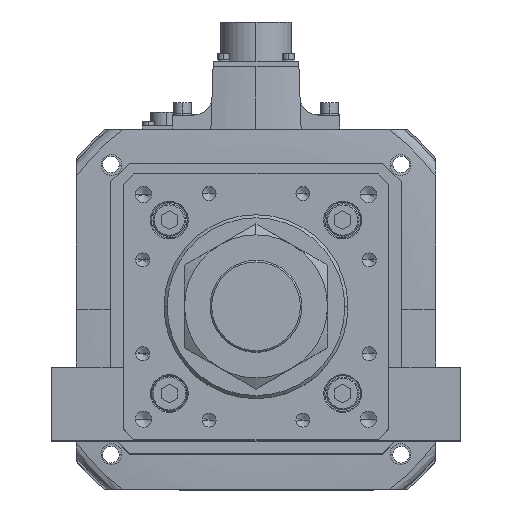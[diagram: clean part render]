
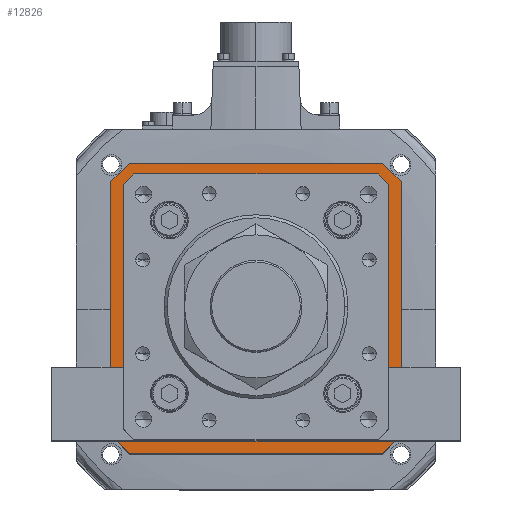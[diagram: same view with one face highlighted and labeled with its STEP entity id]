
A CAD part, top view. The second image highlights one B-rep face of the part: STEP entity #12826.
In plain terms, the highlighted planar face has unit normal (0, 0, 1) as drawn and (0, 0, -1) by its records, which use the part's own axes.
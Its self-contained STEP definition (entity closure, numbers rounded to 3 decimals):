
#49 = CARTESIAN_POINT ( 'NONE',  ( -58.793, 63., 60. ) ) ;
#727 = ORIENTED_EDGE ( 'NONE', *, *, #38077, .T. ) ;
#767 = CARTESIAN_POINT ( 'NONE',  ( -71., -62., 60. ) ) ;
#843 = ORIENTED_EDGE ( 'NONE', *, *, #23063, .T. ) ;
#890 = EDGE_CURVE ( 'NONE', #24007, #19880, #35805, .T. ) ;
#1070 = VECTOR ( 'NONE', #22762, 1000. ) ;
#1563 = DIRECTION ( 'NONE',  ( 0.707, 0.707, 0. ) ) ;
#2560 = VECTOR ( 'NONE', #2666, 1000. ) ;
#2629 = ORIENTED_EDGE ( 'NONE', *, *, #11544, .T. ) ;
#2664 = CARTESIAN_POINT ( 'NONE',  ( -62., -71., 60. ) ) ;
#2666 = DIRECTION ( 'NONE',  ( -0.707, -0.707, 0. ) ) ;
#2939 = VECTOR ( 'NONE', #42751, 1000. ) ;
#3180 = VERTEX_POINT ( 'NONE', #12628 ) ;
#3360 = VERTEX_POINT ( 'NONE', #39389 ) ;
#3573 = DIRECTION ( 'NONE',  ( 0.707, -0.707, 0. ) ) ;
#3762 = VERTEX_POINT ( 'NONE', #21147 ) ;
#4336 = DIRECTION ( 'NONE',  ( -0.707, 0.707, 0. ) ) ;
#5267 = LINE ( 'NONE', #56733, #30895 ) ;
#5506 = EDGE_LOOP ( 'NONE', ( #56211, #45283, #45728, #31810, #35504, #42038, #12228, #843 ) ) ;
#5903 = VERTEX_POINT ( 'NONE', #2664 ) ;
#6422 = VERTEX_POINT ( 'NONE', #11105 ) ;
#6613 = LINE ( 'NONE', #40379, #1070 ) ;
#6712 = VECTOR ( 'NONE', #48771, 1000. ) ;
#8421 = EDGE_CURVE ( 'NONE', #49717, #3360, #57227, .T. ) ;
#9042 = DIRECTION ( 'NONE',  ( -0.707, -0.707, 0. ) ) ;
#11101 = VECTOR ( 'NONE', #35099, 1000. ) ;
#11105 = CARTESIAN_POINT ( 'NONE',  ( 62., 71., 60. ) ) ;
#11352 = CARTESIAN_POINT ( 'NONE',  ( -60.896, 60.896, 60. ) ) ;
#11467 = LINE ( 'NONE', #35575, #48181 ) ;
#11544 = EDGE_CURVE ( 'NONE', #3360, #21516, #52207, .T. ) ;
#11773 = DIRECTION ( 'NONE',  ( 0., -1., 0. ) ) ;
#12228 = ORIENTED_EDGE ( 'NONE', *, *, #32548, .F. ) ;
#12628 = CARTESIAN_POINT ( 'NONE',  ( -58.793, -63., 60. ) ) ;
#12661 = CARTESIAN_POINT ( 'NONE',  ( -59., 63., 60. ) ) ;
#12826 = ADVANCED_FACE ( 'NONE', ( #17468, #14718 ), #20393, .F. ) ;
#13792 = VERTEX_POINT ( 'NONE', #50086 ) ;
#14718 = FACE_OUTER_BOUND ( 'NONE', #5506, .T. ) ;
#15350 = CARTESIAN_POINT ( 'NONE',  ( 62., -71., 60. ) ) ;
#17468 = FACE_BOUND ( 'NONE', #47018, .T. ) ;
#17502 = EDGE_CURVE ( 'NONE', #5903, #32555, #5267, .T. ) ;
#18166 = VERTEX_POINT ( 'NONE', #19768 ) ;
#19768 = CARTESIAN_POINT ( 'NONE',  ( -62., 71., 60. ) ) ;
#19838 = DIRECTION ( 'NONE',  ( 0., 0., 1. ) ) ;
#19880 = VERTEX_POINT ( 'NONE', #22392 ) ;
#20319 = EDGE_CURVE ( 'NONE', #6422, #18166, #34661, .T. ) ;
#20393 = PLANE ( 'NONE',  #29857 ) ;
#21031 = DIRECTION ( 'NONE',  ( 0., 1., 0. ) ) ;
#21147 = CARTESIAN_POINT ( 'NONE',  ( 58.793, 63., 60. ) ) ;
#21516 = VERTEX_POINT ( 'NONE', #53053 ) ;
#21970 = CARTESIAN_POINT ( 'NONE',  ( 58.793, -63., 60. ) ) ;
#22156 = CARTESIAN_POINT ( 'NONE',  ( -71., 71., 60. ) ) ;
#22219 = ORIENTED_EDGE ( 'NONE', *, *, #8421, .T. ) ;
#22374 = VECTOR ( 'NONE', #41863, 1000. ) ;
#22392 = CARTESIAN_POINT ( 'NONE',  ( -63., 58.793, 60. ) ) ;
#22530 = VERTEX_POINT ( 'NONE', #32368 ) ;
#22710 = ORIENTED_EDGE ( 'NONE', *, *, #57066, .T. ) ;
#22762 = DIRECTION ( 'NONE',  ( -0.707, 0.707, 0. ) ) ;
#22856 = VECTOR ( 'NONE', #27865, 1000. ) ;
#23063 = EDGE_CURVE ( 'NONE', #13792, #51820, #11467, .T. ) ;
#23459 = CARTESIAN_POINT ( 'NONE',  ( 60.896, -60.896, 60. ) ) ;
#23742 = EDGE_CURVE ( 'NONE', #21516, #3762, #6613, .T. ) ;
#24007 = VERTEX_POINT ( 'NONE', #49 ) ;
#24089 = LINE ( 'NONE', #49356, #6712 ) ;
#24521 = EDGE_CURVE ( 'NONE', #19880, #27481, #56330, .T. ) ;
#24819 = CARTESIAN_POINT ( 'NONE',  ( -60.896, -60.896, 60. ) ) ;
#25191 = CARTESIAN_POINT ( 'NONE',  ( -63., -59., 60. ) ) ;
#25402 = DIRECTION ( 'NONE',  ( 1., 0., 0. ) ) ;
#25457 = CARTESIAN_POINT ( 'NONE',  ( 62., 71., 60. ) ) ;
#26229 = LINE ( 'NONE', #24819, #46979 ) ;
#26532 = LINE ( 'NONE', #50154, #22374 ) ;
#27256 = VECTOR ( 'NONE', #25402, 1000. ) ;
#27481 = VERTEX_POINT ( 'NONE', #39423 ) ;
#27865 = DIRECTION ( 'NONE',  ( 0., 1., 0. ) ) ;
#29857 = AXIS2_PLACEMENT_3D ( 'NONE', #46879, #19838, #51512 ) ;
#30090 = EDGE_CURVE ( 'NONE', #6422, #22530, #30668, .T. ) ;
#30668 = LINE ( 'NONE', #25457, #51380 ) ;
#30784 = LINE ( 'NONE', #47808, #27256 ) ;
#30895 = VECTOR ( 'NONE', #4336, 1000. ) ;
#31810 = ORIENTED_EDGE ( 'NONE', *, *, #50642, .T. ) ;
#32368 = CARTESIAN_POINT ( 'NONE',  ( 71., 62., 60. ) ) ;
#32548 = EDGE_CURVE ( 'NONE', #13792, #22530, #51179, .T. ) ;
#32555 = VERTEX_POINT ( 'NONE', #767 ) ;
#34661 = LINE ( 'NONE', #22156, #11101 ) ;
#35023 = CARTESIAN_POINT ( 'NONE',  ( 71., 71., 60. ) ) ;
#35099 = DIRECTION ( 'NONE',  ( -1., 0., 0. ) ) ;
#35504 = ORIENTED_EDGE ( 'NONE', *, *, #20319, .F. ) ;
#35575 = CARTESIAN_POINT ( 'NONE',  ( 71., -62., 60. ) ) ;
#35805 = LINE ( 'NONE', #11352, #2560 ) ;
#36390 = VECTOR ( 'NONE', #56377, 1000. ) ;
#36766 = ORIENTED_EDGE ( 'NONE', *, *, #51630, .T. ) ;
#37017 = VECTOR ( 'NONE', #11773, 1000. ) ;
#37200 = DIRECTION ( 'NONE',  ( 0.707, -0.707, 0. ) ) ;
#37201 = EDGE_CURVE ( 'NONE', #45751, #32555, #26532, .T. ) ;
#37707 = VECTOR ( 'NONE', #21031, 1000. ) ;
#37752 = ORIENTED_EDGE ( 'NONE', *, *, #890, .T. ) ;
#38077 = EDGE_CURVE ( 'NONE', #3180, #49717, #38264, .T. ) ;
#38264 = LINE ( 'NONE', #56064, #2939 ) ;
#39389 = CARTESIAN_POINT ( 'NONE',  ( 63., -58.793, 60. ) ) ;
#39423 = CARTESIAN_POINT ( 'NONE',  ( -63., -58.793, 60. ) ) ;
#40379 = CARTESIAN_POINT ( 'NONE',  ( 60.896, 60.896, 60. ) ) ;
#41863 = DIRECTION ( 'NONE',  ( 0., -1., 0. ) ) ;
#42038 = ORIENTED_EDGE ( 'NONE', *, *, #30090, .T. ) ;
#42751 = DIRECTION ( 'NONE',  ( 1., 0., 0. ) ) ;
#44779 = LINE ( 'NONE', #12661, #36390 ) ;
#45283 = ORIENTED_EDGE ( 'NONE', *, *, #17502, .T. ) ;
#45541 = VECTOR ( 'NONE', #1563, 1000. ) ;
#45728 = ORIENTED_EDGE ( 'NONE', *, *, #37201, .F. ) ;
#45751 = VERTEX_POINT ( 'NONE', #46970 ) ;
#46198 = CARTESIAN_POINT ( 'NONE',  ( 63., 59., 60. ) ) ;
#46780 = EDGE_CURVE ( 'NONE', #5903, #51820, #30784, .T. ) ;
#46879 = CARTESIAN_POINT ( 'NONE',  ( 0., 0., 60. ) ) ;
#46970 = CARTESIAN_POINT ( 'NONE',  ( -71., 62., 60. ) ) ;
#46979 = VECTOR ( 'NONE', #37200, 1000. ) ;
#47018 = EDGE_LOOP ( 'NONE', ( #37752, #48554, #22710, #727, #22219, #2629, #56023, #36766 ) ) ;
#47808 = CARTESIAN_POINT ( 'NONE',  ( -71., -71., 60. ) ) ;
#48181 = VECTOR ( 'NONE', #9042, 1000. ) ;
#48554 = ORIENTED_EDGE ( 'NONE', *, *, #24521, .T. ) ;
#48771 = DIRECTION ( 'NONE',  ( 0.707, 0.707, 0. ) ) ;
#49356 = CARTESIAN_POINT ( 'NONE',  ( -71., 62., 60. ) ) ;
#49717 = VERTEX_POINT ( 'NONE', #21970 ) ;
#50086 = CARTESIAN_POINT ( 'NONE',  ( 71., -62., 60. ) ) ;
#50154 = CARTESIAN_POINT ( 'NONE',  ( -71., 71., 60. ) ) ;
#50642 = EDGE_CURVE ( 'NONE', #45751, #18166, #24089, .T. ) ;
#51179 = LINE ( 'NONE', #35023, #22856 ) ;
#51380 = VECTOR ( 'NONE', #3573, 1000. ) ;
#51512 = DIRECTION ( 'NONE',  ( 1., 0., 0. ) ) ;
#51630 = EDGE_CURVE ( 'NONE', #3762, #24007, #44779, .T. ) ;
#51820 = VERTEX_POINT ( 'NONE', #15350 ) ;
#52207 = LINE ( 'NONE', #46198, #37707 ) ;
#53053 = CARTESIAN_POINT ( 'NONE',  ( 63., 58.793, 60. ) ) ;
#56023 = ORIENTED_EDGE ( 'NONE', *, *, #23742, .T. ) ;
#56064 = CARTESIAN_POINT ( 'NONE',  ( 59., -63., 60. ) ) ;
#56211 = ORIENTED_EDGE ( 'NONE', *, *, #46780, .F. ) ;
#56330 = LINE ( 'NONE', #25191, #37017 ) ;
#56377 = DIRECTION ( 'NONE',  ( -1., 0., 0. ) ) ;
#56733 = CARTESIAN_POINT ( 'NONE',  ( -62., -71., 60. ) ) ;
#57066 = EDGE_CURVE ( 'NONE', #27481, #3180, #26229, .T. ) ;
#57227 = LINE ( 'NONE', #23459, #45541 ) ;
